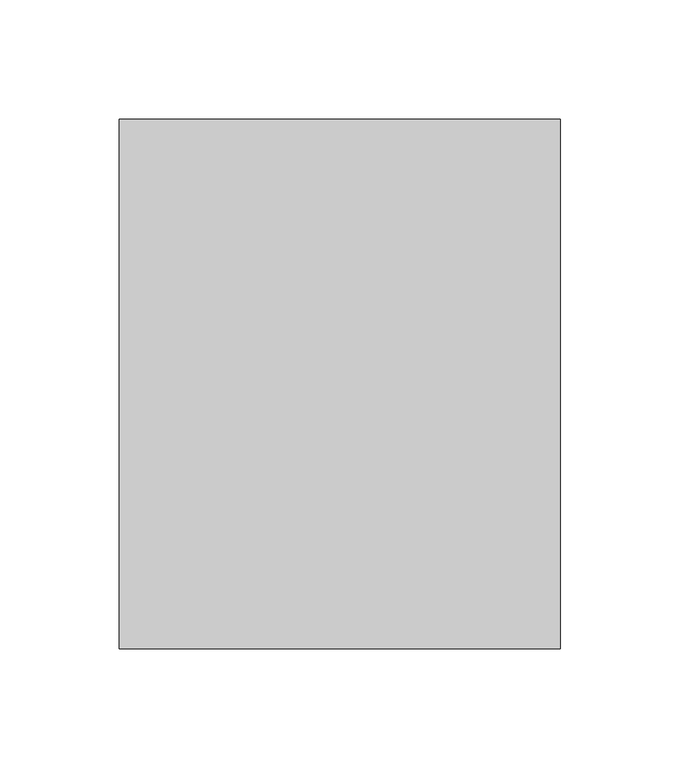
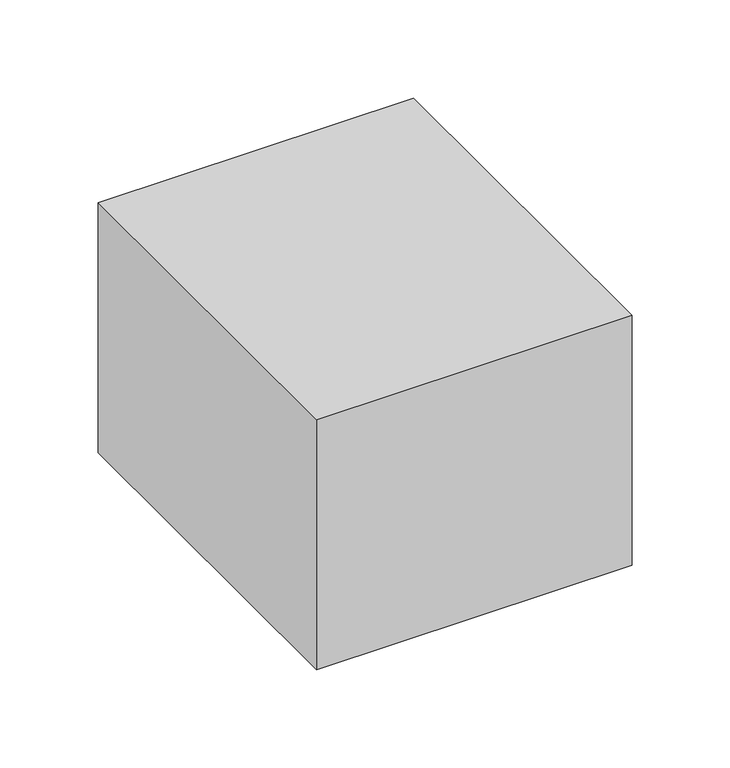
"""IFC4 building model written with IfcOpenShell, lengths in millimetres: light fixture geometry,  218 :  212248."""

from ifc_helpers import new_model, si_unit, frame, origin, place, context, project, spatial, polyline, outline, extrude, source, transform, mapped, element, save


def light_fixture_410ee1c6(model_context):
    return source(origin(), model_context, "Body", "SweptSolid", [
        extrude(outline(polyline([(29157.7746511, 12999.3121745), (29342.7746511, 12999.3121745), (29342.7746511, 12777.3121745), (29157.7746511, 12777.3121745), (29157.7746511, 12999.3121745)])), frame((0.0, 0.0, 2620.0), z_axis=(0.0, 0.0, 1.0), x_axis=(1.0, 0.0, 0.0)), (0.0, 0.0, 1.0), 155.0),
    ])


if __name__ == "__main__":
    model = new_model("IFC4")
    model_context = context("Model", 3, world=origin())
    ifc_project = project(units=[si_unit("LENGTHUNIT", "METRE", prefix="MILLI")], contexts=[model_context])
    site = spatial("IfcSite", under=ifc_project)
    building = spatial("IfcBuilding", under=site)
    placement = place(None, origin())
    light_fixture_shape = light_fixture_410ee1c6(model_context)
    element("IfcLightFixture", 1, ObjectType=" 218 :  212248", at=placement, inside=building, context=model_context, shape_type="MappedRepresentation", body=[
        mapped(light_fixture_shape, transform((0.0, 0.0, 0.0), x_axis=(1.0, 0.0, 0.0), y_axis=(0.0, 1.0, 0.0), z_axis=(0.0, 0.0, 1.0))),
    ])
    save(model, "model.ifc")
